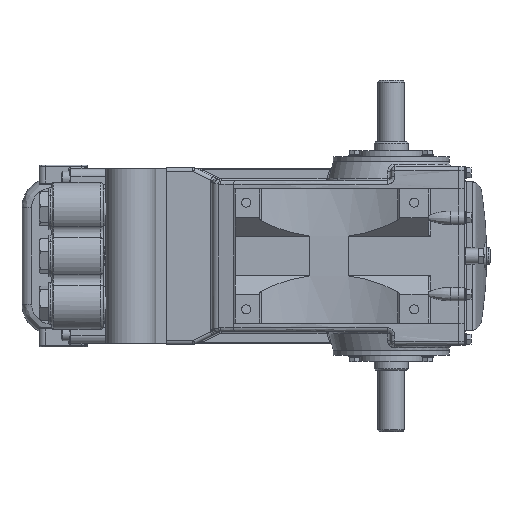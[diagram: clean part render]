
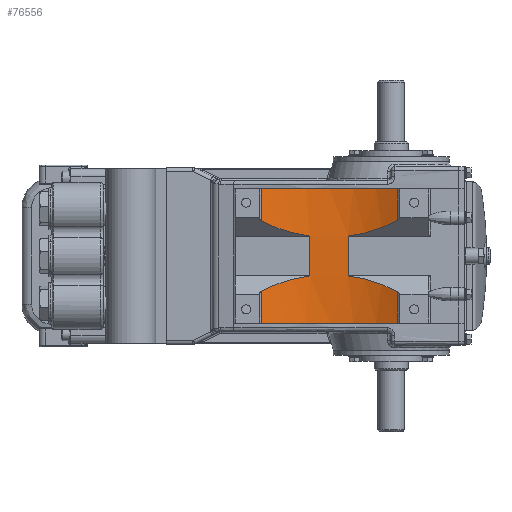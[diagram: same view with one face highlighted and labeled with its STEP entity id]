
A CAD part, front view. The second image highlights one B-rep face of the part: STEP entity #76556.
In plain terms, the highlighted cylindrical face has radius 191.521 mm (diameter 383.043 mm), a partial arc.
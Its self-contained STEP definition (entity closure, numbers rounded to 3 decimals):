
#103 = VERTEX_POINT ( 'NONE', #76149 ) ;
#336 = EDGE_CURVE ( 'NONE', #59327, #91816, #54412, .T. ) ;
#992 = ORIENTED_EDGE ( 'NONE', *, *, #76069, .F. ) ;
#2388 = CARTESIAN_POINT ( 'NONE',  ( -106.674, -96.001, 124.003 ) ) ;
#3652 = EDGE_CURVE ( 'NONE', #59327, #53625, #67393, .T. ) ;
#7075 = ORIENTED_EDGE ( 'NONE', *, *, #62540, .F. ) ;
#8326 = DIRECTION ( 'NONE',  ( 0., 0., 1. ) ) ;
#8467 =( BOUNDED_CURVE ( )  B_SPLINE_CURVE ( 3, ( #11544, #68114, #40058, #67494 ),
 .UNSPECIFIED., .F., .F. ) 
 B_SPLINE_CURVE_WITH_KNOTS ( ( 4, 4 ),
 ( 2.662, 3.01 ),
 .UNSPECIFIED. ) 
 CURVE ( )  GEOMETRIC_REPRESENTATION_ITEM ( )  RATIONAL_B_SPLINE_CURVE ( ( 1., 0.99, 0.99, 1. ) ) 
 REPRESENTATION_ITEM ( '' )  );
#9987 = CARTESIAN_POINT ( 'NONE',  ( -169.896, -115.923, 124.003 ) ) ;
#11162 = CARTESIAN_POINT ( 'NONE',  ( -106.674, -96.001, 26.001 ) ) ;
#11544 = CARTESIAN_POINT ( 'NONE',  ( -169.896, -115.923, -45.924 ) ) ;
#12446 = VECTOR ( 'NONE', #60208, 1000. ) ;
#13131 = EDGE_LOOP ( 'NONE', ( #92304, #91134, #84987, #68554, #50403, #30462, #93065, #992, #7075, #30180, #36985, #89849 ) ) ;
#14437 =( BOUNDED_CURVE ( )  B_SPLINE_CURVE ( 3, ( #16397, #37074, #66011, #72929 ),
 .UNSPECIFIED., .F., .F. ) 
 B_SPLINE_CURVE_WITH_KNOTS ( ( 4, 4 ),
 ( 0.131, 0.489 ),
 .UNSPECIFIED. ) 
 CURVE ( )  GEOMETRIC_REPRESENTATION_ITEM ( )  RATIONAL_B_SPLINE_CURVE ( ( 1., 0.989, 0.989, 1. ) ) 
 REPRESENTATION_ITEM ( '' )  );
#15977 = VECTOR ( 'NONE', #8326, 1000. ) ;
#16397 = CARTESIAN_POINT ( 'NONE',  ( -56.508, -96.001, 26.001 ) ) ;
#16511 = CIRCLE ( 'NONE', #27500, 191.521 ) ;
#18664 = AXIS2_PLACEMENT_3D ( 'NONE', #65915, #66883, #34106 ) ;
#19440 = VERTEX_POINT ( 'NONE', #52063 ) ;
#24524 = VECTOR ( 'NONE', #31980, 1000. ) ;
#25659 = VECTOR ( 'NONE', #25935, 1000. ) ;
#25935 = DIRECTION ( 'NONE',  ( 0., 0., -1. ) ) ;
#27500 = AXIS2_PLACEMENT_3D ( 'NONE', #30787, #31412, #37968 ) ;
#30180 = ORIENTED_EDGE ( 'NONE', *, *, #77409, .F. ) ;
#30462 = ORIENTED_EDGE ( 'NONE', *, *, #31442, .F. ) ;
#30546 = CARTESIAN_POINT ( 'NONE',  ( -56.508, -96.001, 26.001 ) ) ;
#30787 = CARTESIAN_POINT ( 'NONE',  ( -81.591, -285.873, 87.998 ) ) ;
#31412 = DIRECTION ( 'NONE',  ( 0., 0., -1. ) ) ;
#31442 = EDGE_CURVE ( 'NONE', #70078, #55279, #41602, .T. ) ;
#31980 = DIRECTION ( 'NONE',  ( 0., 0., 1. ) ) ;
#33644 = EDGE_CURVE ( 'NONE', #68147, #62278, #16511, .T. ) ;
#34106 = DIRECTION ( 'NONE',  ( -1., 0., 0. ) ) ;
#36985 = ORIENTED_EDGE ( 'NONE', *, *, #336, .F. ) ;
#37074 = CARTESIAN_POINT ( 'NONE',  ( -33.76, -99.006, 29.006 ) ) ;
#37968 = DIRECTION ( 'NONE',  ( -1., 0., 0. ) ) ;
#38922 = CARTESIAN_POINT ( 'NONE',  ( -56.508, -96.001, -26.001 ) ) ;
#39234 = CARTESIAN_POINT ( 'NONE',  ( 8.348, -116.783, -46.783 ) ) ;
#40058 = CARTESIAN_POINT ( 'NONE',  ( -128.802, -98.924, -28.924 ) ) ;
#40409 = CARTESIAN_POINT ( 'NONE',  ( -56.508, -96.001, 124.003 ) ) ;
#41602 = LINE ( 'NONE', #2388, #12446 ) ;
#42121 = DIRECTION ( 'NONE',  ( 0., 0., -1. ) ) ;
#42714 = CARTESIAN_POINT ( 'NONE',  ( 8.348, -116.783, 124.003 ) ) ;
#45284 = AXIS2_PLACEMENT_3D ( 'NONE', #50639, #42121, #50041 ) ;
#45818 = LINE ( 'NONE', #42714, #85250 ) ;
#47702 = DIRECTION ( 'NONE',  ( 0., 0., 1. ) ) ;
#50041 = DIRECTION ( 'NONE',  ( -1., 0., 0. ) ) ;
#50232 = EDGE_CURVE ( 'NONE', #19440, #68147, #66045, .T. ) ;
#50403 = ORIENTED_EDGE ( 'NONE', *, *, #54169, .F. ) ;
#50639 = CARTESIAN_POINT ( 'NONE',  ( -81.591, -285.873, 124.003 ) ) ;
#51113 = EDGE_CURVE ( 'NONE', #84259, #70078, #8467, .T. ) ;
#52063 = CARTESIAN_POINT ( 'NONE',  ( -169.896, -115.923, 45.924 ) ) ;
#52690 = CARTESIAN_POINT ( 'NONE',  ( -169.896, -115.923, 45.924 ) ) ;
#53625 = VERTEX_POINT ( 'NONE', #30546 ) ;
#54088 = CARTESIAN_POINT ( 'NONE',  ( 8.348, -116.783, 87.998 ) ) ;
#54169 = EDGE_CURVE ( 'NONE', #55279, #19440, #74368, .T. ) ;
#54196 = LINE ( 'NONE', #64846, #15977 ) ;
#54339 = CARTESIAN_POINT ( 'NONE',  ( 8.348, -116.783, -46.783 ) ) ;
#54412 =( BOUNDED_CURVE ( )  B_SPLINE_CURVE ( 3, ( #38922, #82648, #60901, #39234 ),
 .UNSPECIFIED., .F., .F. ) 
 B_SPLINE_CURVE_WITH_KNOTS ( ( 4, 4 ),
 ( 3.273, 3.63 ),
 .UNSPECIFIED. ) 
 CURVE ( )  GEOMETRIC_REPRESENTATION_ITEM ( )  RATIONAL_B_SPLINE_CURVE ( ( 1., 0.989, 0.989, 1. ) ) 
 REPRESENTATION_ITEM ( '' )  );
#54833 = EDGE_CURVE ( 'NONE', #53625, #103, #14437, .T. ) ;
#55159 = FACE_OUTER_BOUND ( 'NONE', #13131, .T. ) ;
#55279 = VERTEX_POINT ( 'NONE', #11162 ) ;
#57038 = VERTEX_POINT ( 'NONE', #72411 ) ;
#58343 = CARTESIAN_POINT ( 'NONE',  ( -169.896, -115.923, -87.998 ) ) ;
#59327 = VERTEX_POINT ( 'NONE', #89450 ) ;
#60208 = DIRECTION ( 'NONE',  ( 0., 0., 1. ) ) ;
#60487 = CARTESIAN_POINT ( 'NONE',  ( -150.09, -105.632, 35.633 ) ) ;
#60901 = CARTESIAN_POINT ( 'NONE',  ( -11.91, -106.008, -36.008 ) ) ;
#62278 = VERTEX_POINT ( 'NONE', #54088 ) ;
#62540 = EDGE_CURVE ( 'NONE', #57038, #78896, #63327, .T. ) ;
#63327 = CIRCLE ( 'NONE', #18664, 191.521 ) ;
#64846 = CARTESIAN_POINT ( 'NONE',  ( -169.896, -115.923, 124.003 ) ) ;
#65915 = CARTESIAN_POINT ( 'NONE',  ( -81.591, -285.873, -87.998 ) ) ;
#66011 = CARTESIAN_POINT ( 'NONE',  ( -11.91, -106.008, 36.008 ) ) ;
#66045 = LINE ( 'NONE', #9987, #24524 ) ;
#66102 = CARTESIAN_POINT ( 'NONE',  ( -106.674, -96.001, -26.001 ) ) ;
#66883 = DIRECTION ( 'NONE',  ( 0., 0., 1. ) ) ;
#67393 = LINE ( 'NONE', #40409, #74129 ) ;
#67494 = CARTESIAN_POINT ( 'NONE',  ( -106.674, -96.001, -26.001 ) ) ;
#68114 = CARTESIAN_POINT ( 'NONE',  ( -150.09, -105.632, -35.633 ) ) ;
#68147 = VERTEX_POINT ( 'NONE', #68778 ) ;
#68554 = ORIENTED_EDGE ( 'NONE', *, *, #50232, .F. ) ;
#68778 = CARTESIAN_POINT ( 'NONE',  ( -169.896, -115.923, 87.998 ) ) ;
#70078 = VERTEX_POINT ( 'NONE', #66102 ) ;
#72411 = CARTESIAN_POINT ( 'NONE',  ( 8.348, -116.783, -87.998 ) ) ;
#72929 = CARTESIAN_POINT ( 'NONE',  ( 8.348, -116.783, 46.783 ) ) ;
#73971 = LINE ( 'NONE', #75608, #25659 ) ;
#74129 = VECTOR ( 'NONE', #47702, 1000. ) ;
#74368 =( BOUNDED_CURVE ( )  B_SPLINE_CURVE ( 3, ( #74987, #75297, #60487, #52690 ),
 .UNSPECIFIED., .F., .F. ) 
 B_SPLINE_CURVE_WITH_KNOTS ( ( 4, 4 ),
 ( 0.131, 0.479 ),
 .UNSPECIFIED. ) 
 CURVE ( )  GEOMETRIC_REPRESENTATION_ITEM ( )  RATIONAL_B_SPLINE_CURVE ( ( 1., 0.99, 0.99, 1. ) ) 
 REPRESENTATION_ITEM ( '' )  );
#74960 = EDGE_CURVE ( 'NONE', #62278, #103, #73971, .T. ) ;
#74987 = CARTESIAN_POINT ( 'NONE',  ( -106.674, -96.001, 26.001 ) ) ;
#75297 = CARTESIAN_POINT ( 'NONE',  ( -128.802, -98.924, 28.924 ) ) ;
#75410 = CYLINDRICAL_SURFACE ( 'NONE', #45284, 191.521 ) ;
#75608 = CARTESIAN_POINT ( 'NONE',  ( 8.348, -116.783, 124.003 ) ) ;
#76069 = EDGE_CURVE ( 'NONE', #78896, #84259, #54196, .T. ) ;
#76149 = CARTESIAN_POINT ( 'NONE',  ( 8.348, -116.783, 46.783 ) ) ;
#76556 = ADVANCED_FACE ( 'NONE', ( #55159 ), #75410, .F. ) ;
#77409 = EDGE_CURVE ( 'NONE', #91816, #57038, #45818, .T. ) ;
#78896 = VERTEX_POINT ( 'NONE', #58343 ) ;
#79235 = DIRECTION ( 'NONE',  ( 0., 0., -1. ) ) ;
#82648 = CARTESIAN_POINT ( 'NONE',  ( -33.76, -99.006, -29.006 ) ) ;
#84259 = VERTEX_POINT ( 'NONE', #89180 ) ;
#84987 = ORIENTED_EDGE ( 'NONE', *, *, #33644, .F. ) ;
#85250 = VECTOR ( 'NONE', #79235, 1000. ) ;
#89180 = CARTESIAN_POINT ( 'NONE',  ( -169.896, -115.923, -45.924 ) ) ;
#89450 = CARTESIAN_POINT ( 'NONE',  ( -56.508, -96.001, -26.001 ) ) ;
#89849 = ORIENTED_EDGE ( 'NONE', *, *, #3652, .T. ) ;
#91134 = ORIENTED_EDGE ( 'NONE', *, *, #74960, .F. ) ;
#91816 = VERTEX_POINT ( 'NONE', #54339 ) ;
#92304 = ORIENTED_EDGE ( 'NONE', *, *, #54833, .T. ) ;
#93065 = ORIENTED_EDGE ( 'NONE', *, *, #51113, .F. ) ;
